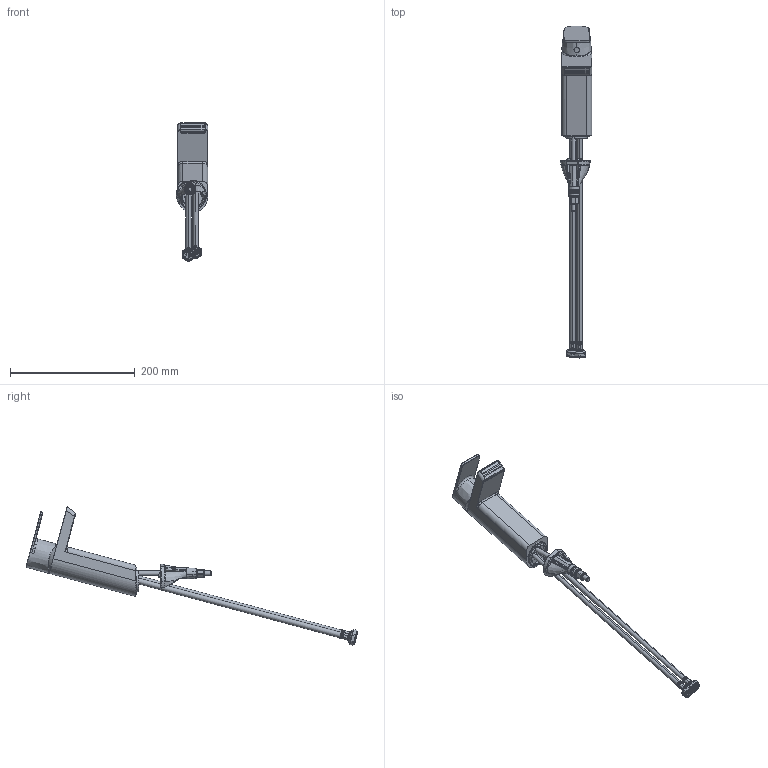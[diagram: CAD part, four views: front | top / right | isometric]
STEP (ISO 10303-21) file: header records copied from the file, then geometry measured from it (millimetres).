
FILE_DESCRIPTION (( 'STEP AP203' ), '1' );
FILE_NAME ('4810F(2021)+57082273(2021).STEP', '2022-03-24T11:19:54', ( '' ), ( '' ), 'SwSTEP 2.0', 'SolidWorks 2016', '' );
FILE_SCHEMA (( 'CONFIG_CONTROL_DESIGN' ));
Products named in the file (1): 4810F(2021)+57082273(2021)
Bounding box: 50.6 x 532.32 x 221.77 mm (x, y, z)
Surface area: 117751.5 mm2 (no closed solid volume)
Topology: 0 solids, 29 shells, 2202 faces, 5353 edges, 3188 vertices
Faces by surface type: bspline 1169, cylinder 429, plane 351, cone 250, torus 2, sphere 1
Entity records: 131048 total; most frequent: CARTESIAN_POINT 89272, ORIENTED_EDGE 10574, DIRECTION 6157, EDGE_CURVE 5300, VERTEX_POINT 3183, AXIS2_PLACEMENT_3D 2525, B_SPLINE_CURVE_WITH_KNOTS 2318, EDGE_LOOP 2269
